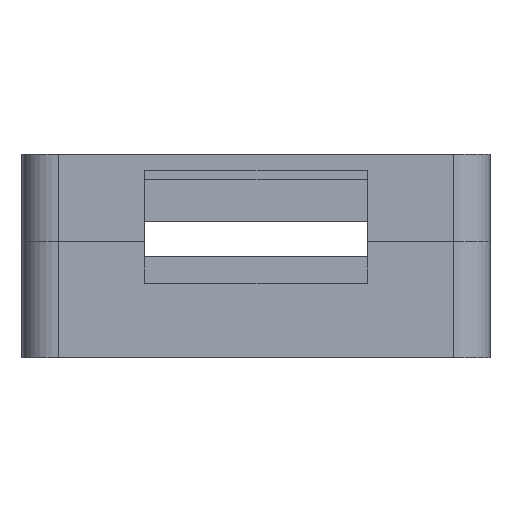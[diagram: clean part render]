
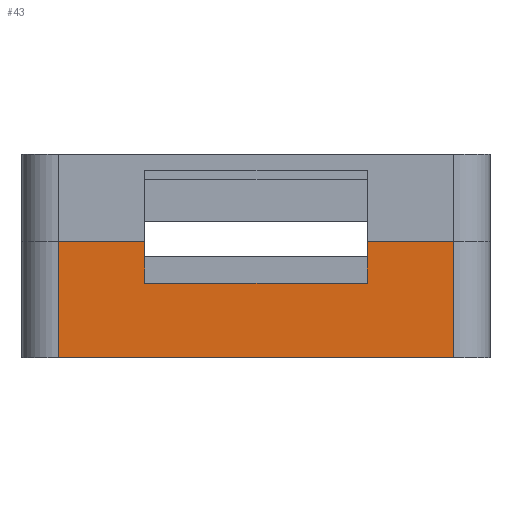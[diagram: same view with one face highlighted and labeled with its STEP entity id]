
A CAD part, left-side view. The second image highlights one B-rep face of the part: STEP entity #43.
In plain terms, the highlighted planar face has unit normal (-1, 0, 0).
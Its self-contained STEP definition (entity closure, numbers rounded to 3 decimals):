
#43 = ADVANCED_FACE('',(#44),#58,.F.);
#44 = FACE_BOUND('',#45,.T.);
#45 = EDGE_LOOP('',(#46,#81,#109,#137,#165,#193,#221,#249));
#46 = ORIENTED_EDGE('',*,*,#47,.F.);
#47 = EDGE_CURVE('',#48,#50,#52,.T.);
#48 = VERTEX_POINT('',#49);
#49 = CARTESIAN_POINT('',(-2.2,19.1,6.4));
#50 = VERTEX_POINT('',#51);
#51 = CARTESIAN_POINT('',(-2.2,14.35,6.4));
#52 = SURFACE_CURVE('',#53,(#57,#69),.PCURVE_S1.);
#53 = LINE('',#54,#55);
#54 = CARTESIAN_POINT('',(-2.2,21.1,6.4));
#55 = VECTOR('',#56,1.);
#56 = DIRECTION('',(0.,-1.,0.));
#57 = PCURVE('',#58,#63);
#58 = PLANE('',#59);
#59 = AXIS2_PLACEMENT_3D('',#60,#61,#62);
#60 = CARTESIAN_POINT('',(-2.2,21.1,0.));
#61 = DIRECTION('',(1.,0.,-0.));
#62 = DIRECTION('',(0.,0.,-1.));
#63 = DEFINITIONAL_REPRESENTATION('',(#64),#68);
#64 = LINE('',#65,#66);
#65 = CARTESIAN_POINT('',(-6.4,0.));
#66 = VECTOR('',#67,1.);
#67 = DIRECTION('',(-0.,-1.));
#68 = ( GEOMETRIC_REPRESENTATION_CONTEXT(2) 
PARAMETRIC_REPRESENTATION_CONTEXT() REPRESENTATION_CONTEXT('2D SPACE',''
  ) );
#69 = PCURVE('',#70,#75);
#70 = PLANE('',#71);
#71 = AXIS2_PLACEMENT_3D('',#72,#73,#74);
#72 = CARTESIAN_POINT('',(-2.2,21.1,6.4));
#73 = DIRECTION('',(0.,0.,1.));
#74 = DIRECTION('',(-1.,0.,0.));
#75 = DEFINITIONAL_REPRESENTATION('',(#76),#80);
#76 = LINE('',#77,#78);
#77 = CARTESIAN_POINT('',(-0.,-0.));
#78 = VECTOR('',#79,1.);
#79 = DIRECTION('',(-0.,1.));
#80 = ( GEOMETRIC_REPRESENTATION_CONTEXT(2) 
PARAMETRIC_REPRESENTATION_CONTEXT() REPRESENTATION_CONTEXT('2D SPACE',''
  ) );
#81 = ORIENTED_EDGE('',*,*,#82,.F.);
#82 = EDGE_CURVE('',#83,#48,#85,.T.);
#83 = VERTEX_POINT('',#84);
#84 = CARTESIAN_POINT('',(-2.2,19.1,0.));
#85 = SURFACE_CURVE('',#86,(#90,#97),.PCURVE_S1.);
#86 = LINE('',#87,#88);
#87 = CARTESIAN_POINT('',(-2.2,19.1,0.));
#88 = VECTOR('',#89,1.);
#89 = DIRECTION('',(-0.,-0.,1.));
#90 = PCURVE('',#58,#91);
#91 = DEFINITIONAL_REPRESENTATION('',(#92),#96);
#92 = LINE('',#93,#94);
#93 = CARTESIAN_POINT('',(-0.,-2.));
#94 = VECTOR('',#95,1.);
#95 = DIRECTION('',(-1.,0.));
#96 = ( GEOMETRIC_REPRESENTATION_CONTEXT(2) 
PARAMETRIC_REPRESENTATION_CONTEXT() REPRESENTATION_CONTEXT('2D SPACE',''
  ) );
#97 = PCURVE('',#98,#103);
#98 = CYLINDRICAL_SURFACE('',#99,2.);
#99 = AXIS2_PLACEMENT_3D('',#100,#101,#102);
#100 = CARTESIAN_POINT('',(-0.2,19.1,0.));
#101 = DIRECTION('',(-0.,-0.,1.));
#102 = DIRECTION('',(-1.,-0.,0.));
#103 = DEFINITIONAL_REPRESENTATION('',(#104),#108);
#104 = LINE('',#105,#106);
#105 = CARTESIAN_POINT('',(-0.,0.));
#106 = VECTOR('',#107,1.);
#107 = DIRECTION('',(-0.,1.));
#108 = ( GEOMETRIC_REPRESENTATION_CONTEXT(2) 
PARAMETRIC_REPRESENTATION_CONTEXT() REPRESENTATION_CONTEXT('2D SPACE',''
  ) );
#109 = ORIENTED_EDGE('',*,*,#110,.T.);
#110 = EDGE_CURVE('',#83,#111,#113,.T.);
#111 = VERTEX_POINT('',#112);
#112 = CARTESIAN_POINT('',(-2.2,-2.6,0.));
#113 = SURFACE_CURVE('',#114,(#118,#125),.PCURVE_S1.);
#114 = LINE('',#115,#116);
#115 = CARTESIAN_POINT('',(-2.2,21.1,0.));
#116 = VECTOR('',#117,1.);
#117 = DIRECTION('',(0.,-1.,0.));
#118 = PCURVE('',#58,#119);
#119 = DEFINITIONAL_REPRESENTATION('',(#120),#124);
#120 = LINE('',#121,#122);
#121 = CARTESIAN_POINT('',(-0.,0.));
#122 = VECTOR('',#123,1.);
#123 = DIRECTION('',(-0.,-1.));
#124 = ( GEOMETRIC_REPRESENTATION_CONTEXT(2) 
PARAMETRIC_REPRESENTATION_CONTEXT() REPRESENTATION_CONTEXT('2D SPACE',''
  ) );
#125 = PCURVE('',#126,#131);
#126 = PLANE('',#127);
#127 = AXIS2_PLACEMENT_3D('',#128,#129,#130);
#128 = CARTESIAN_POINT('',(-2.2,21.1,0.));
#129 = DIRECTION('',(0.,0.,1.));
#130 = DIRECTION('',(-1.,0.,0.));
#131 = DEFINITIONAL_REPRESENTATION('',(#132),#136);
#132 = LINE('',#133,#134);
#133 = CARTESIAN_POINT('',(-0.,-0.));
#134 = VECTOR('',#135,1.);
#135 = DIRECTION('',(-0.,1.));
#136 = ( GEOMETRIC_REPRESENTATION_CONTEXT(2) 
PARAMETRIC_REPRESENTATION_CONTEXT() REPRESENTATION_CONTEXT('2D SPACE',''
  ) );
#137 = ORIENTED_EDGE('',*,*,#138,.T.);
#138 = EDGE_CURVE('',#111,#139,#141,.T.);
#139 = VERTEX_POINT('',#140);
#140 = CARTESIAN_POINT('',(-2.2,-2.6,6.4));
#141 = SURFACE_CURVE('',#142,(#146,#153),.PCURVE_S1.);
#142 = LINE('',#143,#144);
#143 = CARTESIAN_POINT('',(-2.2,-2.6,0.));
#144 = VECTOR('',#145,1.);
#145 = DIRECTION('',(-0.,-0.,1.));
#146 = PCURVE('',#58,#147);
#147 = DEFINITIONAL_REPRESENTATION('',(#148),#152);
#148 = LINE('',#149,#150);
#149 = CARTESIAN_POINT('',(-0.,-23.7));
#150 = VECTOR('',#151,1.);
#151 = DIRECTION('',(-1.,0.));
#152 = ( GEOMETRIC_REPRESENTATION_CONTEXT(2) 
PARAMETRIC_REPRESENTATION_CONTEXT() REPRESENTATION_CONTEXT('2D SPACE',''
  ) );
#153 = PCURVE('',#154,#159);
#154 = CYLINDRICAL_SURFACE('',#155,2.);
#155 = AXIS2_PLACEMENT_3D('',#156,#157,#158);
#156 = CARTESIAN_POINT('',(-0.2,-2.6,0.));
#157 = DIRECTION('',(-0.,-0.,1.));
#158 = DIRECTION('',(-1.,-0.,0.));
#159 = DEFINITIONAL_REPRESENTATION('',(#160),#164);
#160 = LINE('',#161,#162);
#161 = CARTESIAN_POINT('',(0.,0.));
#162 = VECTOR('',#163,1.);
#163 = DIRECTION('',(0.,1.));
#164 = ( GEOMETRIC_REPRESENTATION_CONTEXT(2) 
PARAMETRIC_REPRESENTATION_CONTEXT() REPRESENTATION_CONTEXT('2D SPACE',''
  ) );
#165 = ORIENTED_EDGE('',*,*,#166,.F.);
#166 = EDGE_CURVE('',#167,#139,#169,.T.);
#167 = VERTEX_POINT('',#168);
#168 = CARTESIAN_POINT('',(-2.2,2.15,6.4));
#169 = SURFACE_CURVE('',#170,(#174,#181),.PCURVE_S1.);
#170 = LINE('',#171,#172);
#171 = CARTESIAN_POINT('',(-2.2,21.1,6.4));
#172 = VECTOR('',#173,1.);
#173 = DIRECTION('',(0.,-1.,0.));
#174 = PCURVE('',#58,#175);
#175 = DEFINITIONAL_REPRESENTATION('',(#176),#180);
#176 = LINE('',#177,#178);
#177 = CARTESIAN_POINT('',(-6.4,0.));
#178 = VECTOR('',#179,1.);
#179 = DIRECTION('',(-0.,-1.));
#180 = ( GEOMETRIC_REPRESENTATION_CONTEXT(2) 
PARAMETRIC_REPRESENTATION_CONTEXT() REPRESENTATION_CONTEXT('2D SPACE',''
  ) );
#181 = PCURVE('',#182,#187);
#182 = PLANE('',#183);
#183 = AXIS2_PLACEMENT_3D('',#184,#185,#186);
#184 = CARTESIAN_POINT('',(-2.2,21.1,6.4));
#185 = DIRECTION('',(0.,0.,1.));
#186 = DIRECTION('',(-1.,0.,0.));
#187 = DEFINITIONAL_REPRESENTATION('',(#188),#192);
#188 = LINE('',#189,#190);
#189 = CARTESIAN_POINT('',(-0.,-0.));
#190 = VECTOR('',#191,1.);
#191 = DIRECTION('',(-0.,1.));
#192 = ( GEOMETRIC_REPRESENTATION_CONTEXT(2) 
PARAMETRIC_REPRESENTATION_CONTEXT() REPRESENTATION_CONTEXT('2D SPACE',''
  ) );
#193 = ORIENTED_EDGE('',*,*,#194,.F.);
#194 = EDGE_CURVE('',#195,#167,#197,.T.);
#195 = VERTEX_POINT('',#196);
#196 = CARTESIAN_POINT('',(-2.2,2.15,4.1));
#197 = SURFACE_CURVE('',#198,(#202,#209),.PCURVE_S1.);
#198 = LINE('',#199,#200);
#199 = CARTESIAN_POINT('',(-2.2,2.15,2.05));
#200 = VECTOR('',#201,1.);
#201 = DIRECTION('',(-0.,-0.,1.));
#202 = PCURVE('',#58,#203);
#203 = DEFINITIONAL_REPRESENTATION('',(#204),#208);
#204 = LINE('',#205,#206);
#205 = CARTESIAN_POINT('',(-2.05,-18.95));
#206 = VECTOR('',#207,1.);
#207 = DIRECTION('',(-1.,0.));
#208 = ( GEOMETRIC_REPRESENTATION_CONTEXT(2) 
PARAMETRIC_REPRESENTATION_CONTEXT() REPRESENTATION_CONTEXT('2D SPACE',''
  ) );
#209 = PCURVE('',#210,#215);
#210 = PLANE('',#211);
#211 = AXIS2_PLACEMENT_3D('',#212,#213,#214);
#212 = CARTESIAN_POINT('',(-3.2,2.15,4.1));
#213 = DIRECTION('',(0.,-1.,0.));
#214 = DIRECTION('',(0.,0.,-1.));
#215 = DEFINITIONAL_REPRESENTATION('',(#216),#220);
#216 = LINE('',#217,#218);
#217 = CARTESIAN_POINT('',(2.05,1.));
#218 = VECTOR('',#219,1.);
#219 = DIRECTION('',(-1.,0.));
#220 = ( GEOMETRIC_REPRESENTATION_CONTEXT(2) 
PARAMETRIC_REPRESENTATION_CONTEXT() REPRESENTATION_CONTEXT('2D SPACE',''
  ) );
#221 = ORIENTED_EDGE('',*,*,#222,.T.);
#222 = EDGE_CURVE('',#195,#223,#225,.T.);
#223 = VERTEX_POINT('',#224);
#224 = CARTESIAN_POINT('',(-2.2,14.35,4.1));
#225 = SURFACE_CURVE('',#226,(#230,#237),.PCURVE_S1.);
#226 = LINE('',#227,#228);
#227 = CARTESIAN_POINT('',(-2.2,17.725,4.1));
#228 = VECTOR('',#229,1.);
#229 = DIRECTION('',(-0.,1.,-0.));
#230 = PCURVE('',#58,#231);
#231 = DEFINITIONAL_REPRESENTATION('',(#232),#236);
#232 = LINE('',#233,#234);
#233 = CARTESIAN_POINT('',(-4.1,-3.375));
#234 = VECTOR('',#235,1.);
#235 = DIRECTION('',(-0.,1.));
#236 = ( GEOMETRIC_REPRESENTATION_CONTEXT(2) 
PARAMETRIC_REPRESENTATION_CONTEXT() REPRESENTATION_CONTEXT('2D SPACE',''
  ) );
#237 = PCURVE('',#238,#243);
#238 = PLANE('',#239);
#239 = AXIS2_PLACEMENT_3D('',#240,#241,#242);
#240 = CARTESIAN_POINT('',(-3.2,14.35,4.1));
#241 = DIRECTION('',(0.,0.,1.));
#242 = DIRECTION('',(-1.,0.,0.));
#243 = DEFINITIONAL_REPRESENTATION('',(#244),#248);
#244 = LINE('',#245,#246);
#245 = CARTESIAN_POINT('',(-1.,-3.375));
#246 = VECTOR('',#247,1.);
#247 = DIRECTION('',(-0.,-1.));
#248 = ( GEOMETRIC_REPRESENTATION_CONTEXT(2) 
PARAMETRIC_REPRESENTATION_CONTEXT() REPRESENTATION_CONTEXT('2D SPACE',''
  ) );
#249 = ORIENTED_EDGE('',*,*,#250,.T.);
#250 = EDGE_CURVE('',#223,#50,#251,.T.);
#251 = SURFACE_CURVE('',#252,(#256,#263),.PCURVE_S1.);
#252 = LINE('',#253,#254);
#253 = CARTESIAN_POINT('',(-2.2,14.35,2.05));
#254 = VECTOR('',#255,1.);
#255 = DIRECTION('',(-0.,-0.,1.));
#256 = PCURVE('',#58,#257);
#257 = DEFINITIONAL_REPRESENTATION('',(#258),#262);
#258 = LINE('',#259,#260);
#259 = CARTESIAN_POINT('',(-2.05,-6.75));
#260 = VECTOR('',#261,1.);
#261 = DIRECTION('',(-1.,0.));
#262 = ( GEOMETRIC_REPRESENTATION_CONTEXT(2) 
PARAMETRIC_REPRESENTATION_CONTEXT() REPRESENTATION_CONTEXT('2D SPACE',''
  ) );
#263 = PCURVE('',#264,#269);
#264 = PLANE('',#265);
#265 = AXIS2_PLACEMENT_3D('',#266,#267,#268);
#266 = CARTESIAN_POINT('',(-3.2,14.35,4.1));
#267 = DIRECTION('',(0.,-1.,0.));
#268 = DIRECTION('',(0.,0.,-1.));
#269 = DEFINITIONAL_REPRESENTATION('',(#270),#274);
#270 = LINE('',#271,#272);
#271 = CARTESIAN_POINT('',(2.05,1.));
#272 = VECTOR('',#273,1.);
#273 = DIRECTION('',(-1.,0.));
#274 = ( GEOMETRIC_REPRESENTATION_CONTEXT(2) 
PARAMETRIC_REPRESENTATION_CONTEXT() REPRESENTATION_CONTEXT('2D SPACE',''
  ) );
